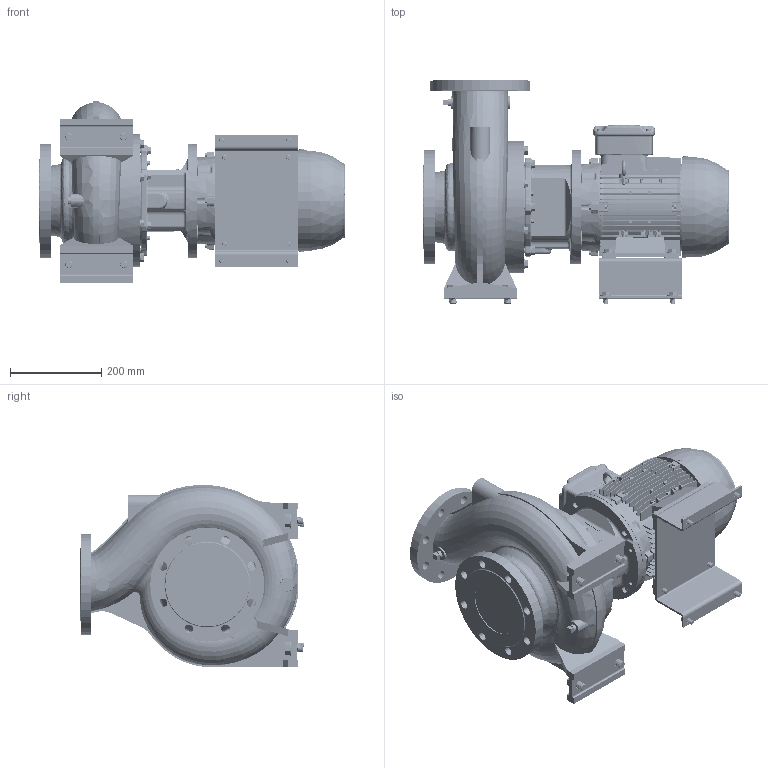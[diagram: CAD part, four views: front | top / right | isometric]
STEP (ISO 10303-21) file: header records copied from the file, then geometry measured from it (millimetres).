
FILE_DESCRIPTION (( 'STEP AP214' ), '1' );
FILE_NAME ('GSD4 100-200_4.0_(112M)_W21.STEP', '2026-07-01T05:42:41', ( '' ), ( '' ), 'SwSTEP 2.0', 'SolidWorks 2024', '' );
FILE_SCHEMA (( 'AUTOMOTIVE_DESIGN' ));
Length unit declared in the file: millimetre
Products named in the file (12): 140 x 88 - 271472192; Parametric bolt and washer_SFT-A249B; Parametric Flat Washer_M10; Parametric Flat Washer_M16; 112M ALIE3_W21T_B35; Parametric bolt and washer_SFT-A351B; Parametric bolt and washer_SFT-A253B; 100-200-112M_ﾃﾞﾌｫﾙﾄ; Parametric bolt_SFT-A249B; Parametric bolt_SFT-A351B; Parametric bolt_SFT-A253B; GSD4 100-200_4.0_(112M)_W21
Assembly tree (21 placements, depth 3):
  GSD4 100-200_4.0_(112M)_W21
    100-200-112M_ﾃﾞﾌｫﾙﾄ
    112M ALIE3_W21T_B35
    140 x 88 - 271472192
    Parametric bolt and washer_SFT-A351B  x4
      Parametric bolt_SFT-A351B
      Parametric Flat Washer_M16
    Parametric bolt and washer_SFT-A249B  x4
      Parametric bolt_SFT-A249B
      Parametric Flat Washer_M10
    Parametric bolt and washer_SFT-A253B  x4
      Parametric bolt_SFT-A253B
      Parametric Flat Washer_M10
Bounding box: 670.1 x 493 x 399.79 mm (x, y, z)
Volume: 32052655.4 mm3; surface area: 1936358.3 mm2
Topology: 37 solids, 39 shells, 5202 faces, 13823 edges, 8975 vertices
Faces by surface type: plane 2683, cylinder 1216, bspline 542, cone 399, torus 351, sphere 11
Entity records: 225996 total; most frequent: CARTESIAN_POINT 114458, ORIENTED_EDGE 25100, DIRECTION 20128, EDGE_CURVE 12550, VERTEX_POINT 8156, LINE 7006, VECTOR 7006, AXIS2_PLACEMENT_3D 6561
